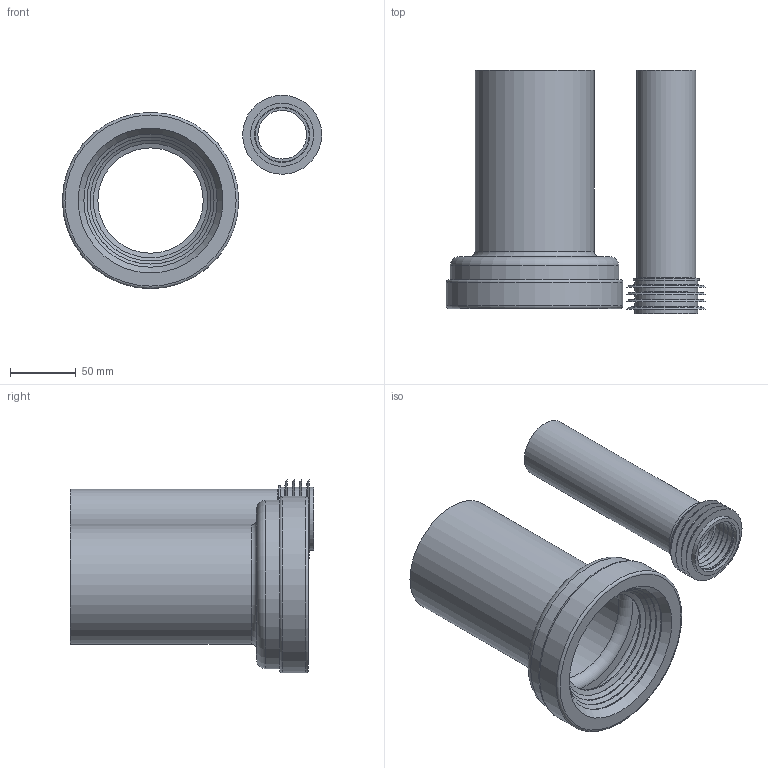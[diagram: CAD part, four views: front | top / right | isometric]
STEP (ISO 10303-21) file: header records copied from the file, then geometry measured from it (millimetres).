
FILE_DESCRIPTION( ( 'STEP AP214' ), '1' );
FILE_NAME( 'C:/Users/ilukic/Documents/ex/paket6/waste_fitting/fur_wcs_und_wandausgusse/anschlusse/ctionSet WWC PE-HD_PP d90_45 L18.5 lp-sl/152404.stp', '2021-08-02T09:44:28', ( 'License CC BY-ND 4.0' ), ( 'CADENAS' ), ' ', 'PARTsolutions', ' ' );
FILE_SCHEMA( ( 'AUTOMOTIVE_DESIGN { 1 0 10303 214 1 1 1 1 }' ) );
Length unit declared in the file: millimetre
Products named in the file (5): 152404; _895.591_wwc; _152.424_wwc; _861.055; _119.668_wwc
Assembly tree (4 placements, depth 2):
  152404
    _895.591_wwc
    _152.424_wwc
    _861.055
    _119.668_wwc
Bounding box: 197 x 185 x 147 mm (x, y, z)
Volume: 360494.6 mm3; surface area: 227861.2 mm2
Topology: 4 solids, 4 shells, 103 faces, 181 edges, 103 vertices
Faces by surface type: cylinder 29, cone 28, plane 25, torus 21
Full cylindrical faces by diameter (mm): 37 x1, 41 x1, 42 x5, 45 x2, 48 x5, 50 x1, 80 x1, 83.02 x1, 90.38 x1, 122 x4, 123.6 x3, 127 x1, 128 x1, 132 x1, 134 x1
Entity records: 3006 total; most frequent: DIRECTION 422, CARTESIAN_POINT 318, AXIS2_PLACEMENT_3D 211, EDGE_LOOP 206, ORIENTED_EDGE 206, FACE_OUTER_BOUND 153, VERTEX_POINT 107, STYLED_ITEM 103
